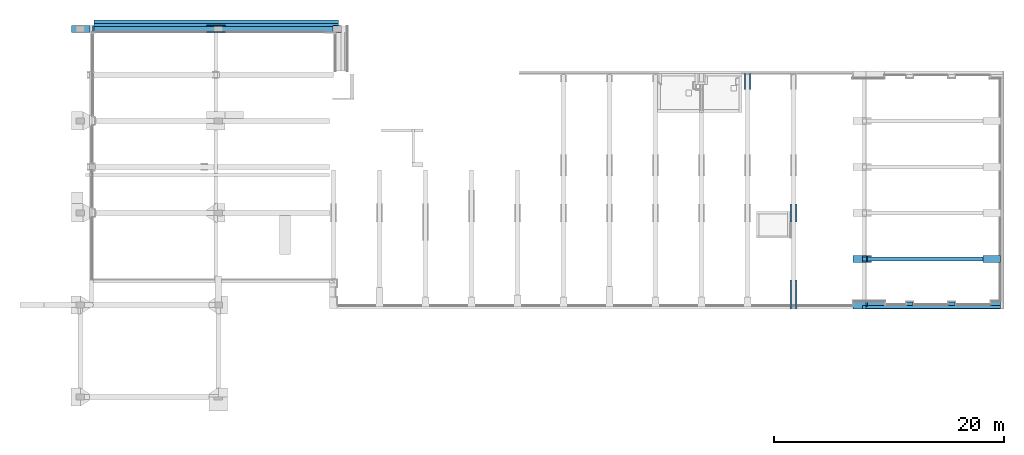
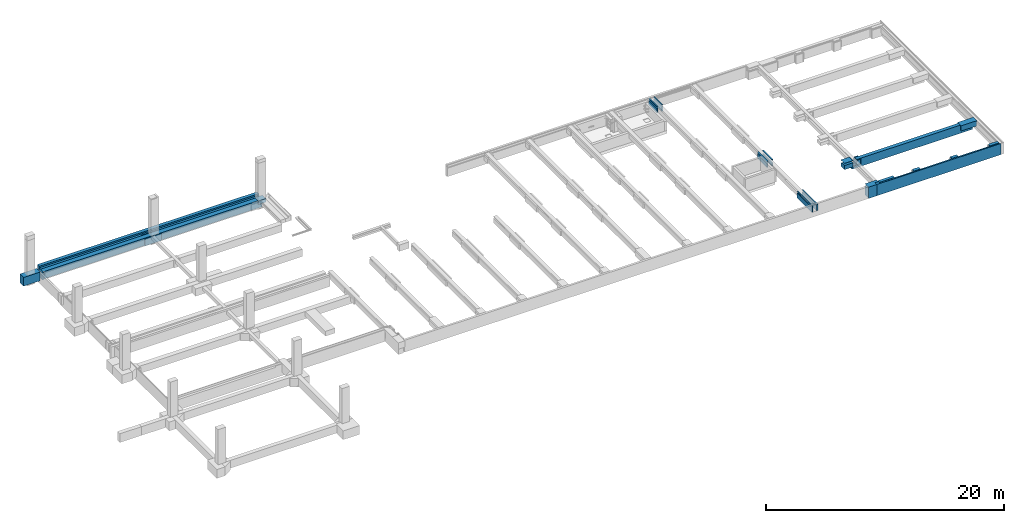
# One storey, part 7 of 17: 16 beams.
"""IFC2X3 building model written with IfcOpenShell, lengths in millimetres."""

from ifc_helpers import new_model, entity, si_unit, converted_unit, derived_unit, money_unit, direction, frame, origin_with_axes, place, context, subcontext, project, spatial, faceted_brep, material, type_object, element, save


model = new_model("IFC2X3")

# Units and contexts
model_context = context("Model", 3, precision=0.01, world=origin_with_axes(), true_north=direction((0.0, 1.0)))
body_context = subcontext(model_context, "Body", "Model", "MODEL_VIEW")
ifc_project = project(units=[si_unit("LENGTHUNIT", "METRE", prefix="MILLI"), si_unit("AREAUNIT", "SQUARE_METRE"), si_unit("VOLUMEUNIT", "CUBIC_METRE"), converted_unit("PLANEANGLEUNIT", "DEGREE", entity("IfcPlaneAngleMeasure", 0.0174532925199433), si_unit("PLANEANGLEUNIT", "RADIAN"), dimensions=[0, 0, 0, 0, 0, 0, 0]), money_unit("EUR"), converted_unit("TIMEUNIT", "Year", entity("IfcTimeMeasure", 31557600.0), si_unit("TIMEUNIT", "SECOND"), dimensions=[0, 0, 1, 0, 0, 0, 0]), si_unit("MASSUNIT", "GRAM", prefix="KILO"), si_unit("THERMODYNAMICTEMPERATUREUNIT", "DEGREE_CELSIUS"), si_unit("LUMINOUSINTENSITYUNIT", "LUMEN"), si_unit("ENERGYUNIT", "JOULE", prefix="MEGA"), derived_unit("THERMALCONDUCTANCEUNIT", [(si_unit("POWERUNIT", "WATT"), 1), (si_unit("LENGTHUNIT", "METRE"), -1), (si_unit("THERMODYNAMICTEMPERATUREUNIT", "KELVIN"), -1)]), derived_unit("SPECIFICHEATCAPACITYUNIT", [(si_unit("ENERGYUNIT", "JOULE"), 1), (si_unit("MASSUNIT", "GRAM", prefix="KILO"), -1), (si_unit("THERMODYNAMICTEMPERATUREUNIT", "KELVIN"), -1)]), derived_unit("MASSDENSITYUNIT", [(si_unit("MASSUNIT", "GRAM", prefix="KILO"), 1), (si_unit("VOLUMEUNIT", "CUBIC_METRE"), -1)])], contexts=[model_context])

# Site, building, storey
site_placement = place(None, origin_with_axes())
site = spatial("IfcSite", under=ifc_project, at=site_placement, Name="<site naam>", CompositionType="ELEMENT")
building_placement = place(site_placement, origin_with_axes())
building = spatial("IfcBuilding", under=site, at=building_placement, Name="<Naam gebouw>", CompositionType="ELEMENT")
storey_placement = place(building_placement, frame((0.0, 0.0, -1100.0), z_axis=(0.0, 0.0, 1.0), x_axis=(1.0, 0.0, 0.0)))
storey = spatial("IfcBuildingStorey", under=building, at=storey_placement, Name="-1 Fundering", CompositionType="ELEMENT", Elevation=-1100.0)

# Beams
ifc_material = material(Name="beton_gewapend C")
beam_type_1 = type_object("IfcBeamType", Name="beton_gewapend C 600 x 650", PredefinedType="BEAM")
beam_1_placement = place(storey_placement, frame((58800.00000000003, 4000.000000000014, 1070.0), z_axis=(0.0, 0.0, 1.0), x_axis=(0.0, 1.0, 0.0)))
element("IfcBeam", 1, at=beam_1_placement, inside=storey, type_object=beam_type_1, material=ifc_material, Name="28_Balk_beton_gewapend", ObjectType="BEAM", context=body_context, shape_type="Brep", body=[
    faceted_brep([(-174.9999999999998, 357.1716637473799, -220.0), (-174.9999999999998, 357.1716637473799, -120.0), (-174.9999999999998, 0.0, -120.0), (-175.0000000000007, 0.0, -650.055), (-174.9999999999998, 799.99999999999, -650.055), (-174.9999999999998, 799.99999999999, -220.0), (-174.9999999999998, 774.9999999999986, -220.0), (-175.0000000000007, 774.9999999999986, -650.0000000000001), (-175.0000000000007, 424.9999999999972, -650.0000000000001), (-174.9999999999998, 424.9999999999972, -220.0), (-300.0000000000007, 357.1716637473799, -220.0), (-300.0000000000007, 357.1716637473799, -120.0), (-299.9999999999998, 0.0, -120.0), (-299.9999999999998, 0.0, -650.055), (175.0000000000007, 0.0, -650.055), (174.9999999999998, 799.99999999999, -650.055), (-299.9999999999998, 1600.000000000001, -650.055), (299.9999999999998, 1600.000000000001, -650.055), (299.9999999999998, 0.0, -650.055), (174.9999999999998, 799.99999999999, -330.0000000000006), (174.9999999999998, 799.99999999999, -220.0), (174.9999999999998, 1600.000000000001, -220.0), (-299.9999999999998, 1600.000000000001, -220.0), (-299.9999999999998, 774.9999999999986, -220.0), (-300.0000000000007, 774.9999999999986, -650.0000000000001), (-300.0000000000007, 424.9999999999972, -650.0000000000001), (-299.9999999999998, 424.9999999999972, -220.0), (174.9999999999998, 0.0, -120.0), (175.0000000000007, 357.1716637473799, -120.0), (175.0000000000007, 357.1716637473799, -220.0), (174.9999999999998, 424.9999999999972, -220.0), (175.0000000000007, 424.9999999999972, -650.0000000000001), (175.0000000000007, 774.9999999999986, -650.0000000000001), (174.9999999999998, 774.9999999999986, -330.0000000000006), (174.9999999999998, 1600.000000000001, -330.0000000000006), (299.9999999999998, 1600.000000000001, -330.0000000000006), (300.0000000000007, 357.1716637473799, -220.0), (300.0000000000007, 357.1716637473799, -120.0), (299.9999999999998, 0.0, -120.0), (300.0000000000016, 774.9999999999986, -330.0000000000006), (300.0000000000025, 774.9999999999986, -650.0000000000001), (300.0000000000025, 424.9999999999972, -650.0000000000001), (300.0000000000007, 424.9999999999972, -220.0)], [[[0, 1, 2, 3, 4, 5, 6, 7, 8, 9]], [[10, 11, 1, 0]], [[11, 12, 2, 1]], [[3, 2, 12, 13]], [[14, 15, 4, 3, 13, 16, 17, 18]], [[15, 19, 20, 5, 4]], [[5, 20, 21, 22, 23, 6]], [[7, 6, 23, 24]], [[24, 25, 8, 7]], [[25, 26, 9, 8]], [[10, 0, 9, 26]], [[13, 12, 11, 10, 26, 25, 24, 23, 22, 16]], [[14, 27, 28, 29, 30, 31, 32, 33, 19, 15]], [[21, 34, 35, 17, 16, 22]], [[36, 37, 38, 18, 17, 35, 39, 40, 41, 42]], [[18, 38, 27, 14]], [[34, 21, 20, 19]], [[28, 27, 38, 37]], [[29, 28, 37, 36]], [[29, 36, 42, 30]], [[31, 30, 42, 41]], [[41, 40, 32, 31]], [[40, 39, 33, 32]], [[19, 33, 39, 35, 34]]]),
    faceted_brep([(174.9999999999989, 774.9999999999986, 0.0), (174.9999999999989, 774.9999999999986, -19.99999999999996), (300.0000000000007, 774.9999999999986, -19.99999999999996), (300.0000000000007, 774.9999999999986, 0.0), (174.9999999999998, 799.99999999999, 0.0), (174.9999999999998, 799.99999999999, -19.99999999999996), (-299.9999999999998, 1600.000000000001, -19.99999999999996), (299.9999999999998, 1600.000000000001, -20.00000000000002), (-174.9999999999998, 799.99999999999, -20.00000000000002), (-174.9999999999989, 774.9999999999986, -20.00000000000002), (-299.9999999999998, 774.9999999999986, -20.00000000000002), (299.9999999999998, 1600.000000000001, 0.0), (-174.9999999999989, 774.9999999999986, 0.0), (-174.9999999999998, 799.99999999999, 0.0), (-299.9999999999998, 1600.000000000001, 0.0), (-299.9999999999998, 774.9999999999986, 0.0)], [[[0, 1, 2, 3]], [[4, 5, 1, 0]], [[6, 7, 2, 1, 5, 8, 9, 10]], [[3, 2, 7, 11]], [[12, 13, 4, 0, 3, 11, 14, 15]], [[13, 8, 5, 4]], [[11, 7, 6, 14]], [[12, 9, 8, 13]], [[15, 10, 9, 12]], [[14, 6, 10, 15]]]),
])
beam_2_placement = place(storey_placement, frame((70310.0, 4000.000000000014, 1070.0), z_axis=(0.0, 0.0, 1.0), x_axis=(0.0, 1.0, 0.0)))
element("IfcBeam", 2, at=beam_2_placement, inside=storey, type_object=beam_type_1, material=ifc_material, Name="28_Balk_beton_gewapend", ObjectType="BEAM", context=body_context, shape_type="Brep", body=[
    faceted_brep([(299.9999999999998, 1819.999999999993, -650.0000000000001), (299.9999999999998, 1819.999999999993, -120.0), (300.0000000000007, 299.9999999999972, -119.9999999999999), (299.9999999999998, 299.9999999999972, -650.0000000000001), (-299.9999999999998, 1819.999999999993, -650.0000000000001), (-299.9999999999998, 1819.999999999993, -119.9999999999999), (-299.9999999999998, 299.9999999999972, -120.0), (-299.9999999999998, 299.9999999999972, -650.0000000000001)], [[[0, 1, 2, 3]], [[4, 5, 1, 0]], [[5, 6, 2, 1]], [[3, 2, 6, 7]], [[7, 4, 0, 3]], [[7, 6, 5, 4]]]),
])
beam_3_placement = place(storey_placement, frame((52000.00000000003, 8794.453850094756, 1070.0), z_axis=(0.0, 0.0, 1.0), x_axis=(-1.0, 0.0, 0.0)))
element("IfcBeam", 3, at=beam_3_placement, inside=storey, type_object=beam_type_1, material=ifc_material, Name="28_Balk_beton_gewapend", ObjectType="BEAM", context=body_context, shape_type="Brep", body=[
    faceted_brep([(299.9999999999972, 0.0, -650.0000000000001), (299.9999999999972, 0.0, -170.0), (174.9999999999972, 0.0, -170.0), (174.9999999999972, 0.0, -650.0000000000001), (299.9999999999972, 1599.999999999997, -650.0000000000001), (299.9999999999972, 1599.999999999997, -170.0), (174.9999999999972, 1599.999999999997, -170.0), (174.9999999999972, 1599.999999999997, -650.0000000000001)], [[[0, 1, 2, 3]], [[4, 5, 1, 0]], [[5, 6, 2, 1]], [[3, 2, 6, 7]], [[7, 4, 0, 3]], [[7, 6, 5, 4]]]),
    faceted_brep([(-175.0000000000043, 0.0, -650.0000000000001), (-175.0000000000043, 0.0, -330.0000000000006), (-299.9999999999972, 0.0, -330.0000000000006), (-299.9999999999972, 0.0, -650.0000000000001), (-175.0000000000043, 1599.999999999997, -650.0000000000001), (-175.0000000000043, 1599.999999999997, -330.0000000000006), (-299.9999999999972, 1599.999999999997, -330.0000000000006), (-299.9999999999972, 1599.999999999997, -650.0000000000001)], [[[0, 1, 2, 3]], [[4, 5, 1, 0]], [[5, 6, 2, 1]], [[3, 2, 6, 7]], [[0, 3, 7, 4]], [[7, 6, 5, 4]]]),
    faceted_brep([(-299.9999999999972, 1599.999999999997, 0.0), (-299.9999999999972, 1599.999999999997, -80.00000000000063), (-299.9999999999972, 0.0, -80.00000000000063), (-299.9999999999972, 0.0, 0.0), (-175.0000000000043, 1599.999999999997, 0.0), (-175.0000000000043, 1599.999999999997, -80.00000000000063), (-175.0000000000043, 0.0, -80.00000000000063), (-175.0000000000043, 0.0, 0.0)], [[[0, 1, 2, 3]], [[4, 5, 1, 0]], [[5, 6, 2, 1]], [[3, 2, 6, 7]], [[4, 0, 3, 7]], [[7, 6, 5, 4]]]),
    faceted_brep([(174.9999999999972, 1599.999999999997, 0.0), (174.9999999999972, 1599.999999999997, -20.00000000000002), (174.9999999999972, 0.0, -20.00000000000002), (174.9999999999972, 0.0, 0.0), (299.9999999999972, 1599.999999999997, 0.0), (299.9999999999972, 1599.999999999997, -20.00000000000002), (299.9999999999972, 0.0, -20.00000000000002), (299.9999999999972, 0.0, 0.0)], [[[0, 1, 2, 3]], [[4, 5, 1, 0]], [[5, 6, 2, 1]], [[3, 2, 6, 7]], [[3, 7, 4, 0]], [[7, 6, 5, 4]]]),
])
beam_4_placement = place(storey_placement, frame((52000.00000000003, 2150.000000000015, 1070.0), z_axis=(0.0, 0.0, 1.0), x_axis=(-1.0, 0.0, 0.0)))
element("IfcBeam", 4, at=beam_4_placement, inside=storey, type_object=beam_type_1, material=ifc_material, Name="28_Balk_beton_gewapend", ObjectType="BEAM", context=body_context, shape_type="Brep", body=[
    faceted_brep([(185.0000486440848, 2374.993437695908, 0.0), (185.0000009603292, 2374.993437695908, -20.00000000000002), (185.0000009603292, 2274.999999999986, -20.00000000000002), (185.0000486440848, 2149.993401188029, -19.99999999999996), (185.0000486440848, 2149.993401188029, 0.0), (174.9999999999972, 2374.993437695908, -120.0), (185.0000009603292, 2374.993437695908, -120.0), (185.0000009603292, 2374.993437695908, -170.0), (299.9999999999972, 2374.993437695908, -170.0), (299.9999999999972, 2374.993437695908, -20.00000000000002), (174.9999999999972, 2374.993437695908, 0.0), (299.9999999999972, 0.0, -20.00000000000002), (174.9999999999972, 0.0, -19.99999999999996), (174.9999999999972, 2149.993401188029, -19.99999999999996), (174.9999999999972, 2149.993401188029, 0.0), (174.9999999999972, 0.0, 0.0), (299.9999999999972, 0.0, 0.0), (299.9999999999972, 2484.999999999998, 0.0), (174.9999999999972, 2484.999999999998, 0.0), (174.9999999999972, 2274.999999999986, -120.0), (185.0000009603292, 2274.999999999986, -120.0), (185.0000009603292, 2274.999999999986, -170.0), (196.0454266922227, 2274.999999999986, -170.0), (196.0454266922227, 0.0, -170.0), (299.9999999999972, 0.0, -170.0), (299.9999999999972, 0.0, -650.0000000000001), (299.9999999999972, 2484.999999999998, -650.0000000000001), (174.9999999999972, 2484.999999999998, -650.0000000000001), (174.9999999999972, 0.0, -650.0000000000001), (174.9999999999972, 0.0, -220.0), (174.9999999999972, 2274.999999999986, -220.0), (196.0454266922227, 2274.999999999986, -220.0), (196.0454266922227, 0.0, -220.0)], [[[0, 1, 2, 3, 4]], [[5, 6, 7, 8, 9, 1, 0, 10]], [[11, 12, 13, 3, 2, 1, 9]], [[3, 13, 14, 4]], [[10, 0, 4, 14, 15, 16, 17, 18]], [[19, 20, 6, 5]], [[7, 6, 20, 21]], [[7, 21, 22, 23, 24, 8]], [[9, 8, 24, 25, 26, 17, 16, 11]], [[19, 5, 10, 18, 27, 28, 29, 30]], [[15, 12, 11, 16]], [[15, 14, 13, 12]], [[17, 26, 27, 18]], [[22, 21, 20, 19, 30, 31]], [[32, 23, 22, 31]], [[25, 24, 23, 32, 29, 28]], [[26, 25, 28, 27]], [[31, 30, 29, 32]]]),
    faceted_brep([(-299.9999999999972, 0.0, -220.0), (-299.9999999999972, 2274.999999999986, -220.0), (-299.9999999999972, 2274.999999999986, -19.99999999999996), (-299.9999999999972, 0.0, -19.99999999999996), (-299.9999999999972, 0.0, 0.0), (-299.9999999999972, 2484.999999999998, 0.0), (-299.9999999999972, 2484.999999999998, -650.0000000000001), (-299.9999999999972, 0.0, -650.0000000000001), (-175.0000000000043, 2274.999999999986, -220.0), (-175.0000000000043, 0.0, -220.0), (-175.0000000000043, 2274.999999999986, -19.99999999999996), (-175.0000000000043, 0.0, -20.00000000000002), (-175.0000000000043, 0.0, 0.0), (-175.0000000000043, 2484.999999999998, 0.0), (-175.0000000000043, 2484.999999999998, -650.0000000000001), (-175.0000000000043, 0.0, -650.0000000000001)], [[[0, 1, 2, 3, 4, 5, 6, 7]], [[8, 1, 0, 9]], [[10, 2, 1, 8]], [[10, 11, 3, 2]], [[4, 3, 11, 12]], [[5, 4, 12, 13]], [[6, 5, 13, 14]], [[7, 6, 14, 15]], [[15, 9, 0, 7]], [[10, 8, 9, 15, 14, 13, 12, 11]]]),
])
beam_5_placement = place(storey_placement, frame((48000.00000000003, 20335.00000000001, 1070.0), z_axis=(0.0, 0.0, 1.0), x_axis=(-1.0, 0.0, 0.0)))
element("IfcBeam", 5, at=beam_5_placement, inside=storey, type_object=beam_type_1, material=ifc_material, Name="28_Balk_beton_gewapend", ObjectType="BEAM", context=body_context, shape_type="Brep", body=[
    faceted_brep([(299.9999999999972, 199.9999999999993, -650.0000000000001), (299.9999999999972, 199.9999999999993, -170.0), (174.9999999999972, 199.9999999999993, -170.0), (174.9999999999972, 199.9999999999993, -650.0000000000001), (299.9999999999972, 1600.000000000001, -650.0000000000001), (299.9999999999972, 1600.000000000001, -170.0), (174.9999999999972, 1599.999999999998, -170.0), (174.9999999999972, 1599.999999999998, -650.0000000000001)], [[[0, 1, 2, 3]], [[4, 5, 1, 0]], [[5, 6, 2, 1]], [[3, 2, 6, 7]], [[7, 4, 0, 3]], [[7, 6, 5, 4]]]),
    faceted_brep([(-174.9999999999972, 199.9999999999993, -650.0000000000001), (-174.9999999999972, 199.9999999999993, -170.0), (-299.9999999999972, 199.9999999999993, -170.0), (-299.9999999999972, 199.9999999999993, -650.0000000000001), (-174.9999999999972, 1599.999999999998, -650.0000000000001), (-174.9999999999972, 1599.999999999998, -170.0), (-299.9999999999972, 1600.000000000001, -170.0), (-299.9999999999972, 1600.000000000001, -650.0000000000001)], [[[0, 1, 2, 3]], [[4, 5, 1, 0]], [[5, 6, 2, 1]], [[3, 2, 6, 7]], [[7, 4, 0, 3]], [[7, 6, 5, 4]]]),
    faceted_brep([(174.9999999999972, 1599.999999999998, 0.0), (174.9999999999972, 1599.999999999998, -20.00000000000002), (174.9999999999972, 199.9999999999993, -20.00000000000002), (174.9999999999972, 199.9999999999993, 0.0), (299.9999999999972, 1600.000000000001, 0.0), (299.9999999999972, 1600.000000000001, -20.00000000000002), (299.9999999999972, 199.9999999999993, -20.00000000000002), (299.9999999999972, 199.9999999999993, 0.0)], [[[0, 1, 2, 3]], [[4, 5, 1, 0]], [[5, 6, 2, 1]], [[3, 2, 6, 7]], [[4, 0, 3, 7]], [[7, 6, 5, 4]]]),
    faceted_brep([(-299.9999999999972, 1600.000000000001, 0.0), (-299.9999999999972, 1600.000000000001, -20.00000000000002), (-299.9999999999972, 199.9999999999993, -20.00000000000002), (-299.9999999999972, 199.9999999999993, 0.0), (-174.9999999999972, 1599.999999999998, 0.0), (-174.9999999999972, 1599.999999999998, -20.00000000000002), (-174.9999999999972, 199.9999999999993, -20.00000000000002), (-174.9999999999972, 199.9999999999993, 0.0)], [[[0, 1, 2, 3]], [[4, 5, 1, 0]], [[5, 6, 2, 1]], [[3, 2, 6, 7]], [[4, 0, 3, 7]], [[7, 6, 5, 4]]]),
])
beam_type_2 = type_object("IfcBeamType", Name="beton_gewapend C 350 x 950", PredefinedType="BEAM")
beam_6_placement = place(storey_placement, frame((58000.00000000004, 4000.000000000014, 1070.0), z_axis=(0.0, 0.0, 1.0), x_axis=(0.0, -1.0, 0.0)))
element("IfcBeam", 6, at=beam_6_placement, inside=storey, type_object=beam_type_2, material=ifc_material, Name="28_Balk_beton_gewapend", ObjectType="BEAM", context=body_context, shape_type="Brep", body=[
    faceted_brep([(-174.9999999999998, 442.8283362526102, -220.0), (-174.9999999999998, 442.8283362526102, -120.0), (-175.0000000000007, 10489.99999999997, -120.0), (-175.0000000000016, 10489.99999999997, -650.0000000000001), (-175.0000000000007, 11649.99999999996, -650.0000000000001), (-175.0000000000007, 11649.99999999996, -949.9999999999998), (-174.9999999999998, 0.0, -949.9999999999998), (-174.9999999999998, 0.0, -220.0), (-174.9999999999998, 24.99999999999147, -220.0), (-175.0000000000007, 24.99999999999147, -650.0000000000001), (-175.0000000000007, 374.9999999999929, -650.0000000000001), (-174.9999999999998, 374.9999999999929, -220.0), (174.9999999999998, 442.8283362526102, -220.0), (174.9999999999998, 442.8283362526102, -120.0), (174.9999999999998, 10489.99999999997, -120.0), (174.9999999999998, 10489.99999999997, -650.0000000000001), (174.9999999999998, 11649.99999999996, -650.0000000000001), (174.9999999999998, 11649.99999999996, -949.9999999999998), (174.9999999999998, 0.0, -949.9999999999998), (174.9999999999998, 0.0, -220.0), (174.9999999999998, 24.99999999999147, -220.0), (175.0000000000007, 24.99999999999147, -650.0000000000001), (175.0000000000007, 374.9999999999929, -650.0000000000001), (174.9999999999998, 374.9999999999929, -220.0)], [[[0, 1, 2, 3, 4, 5, 6, 7, 8, 9, 10, 11]], [[12, 13, 1, 0]], [[13, 14, 2, 1]], [[3, 2, 14, 15]], [[4, 3, 15, 16]], [[16, 17, 5, 4]], [[6, 5, 17, 18]], [[18, 19, 7, 6]], [[19, 20, 8, 7]], [[9, 8, 20, 21]], [[10, 9, 21, 22]], [[22, 23, 11, 10]], [[12, 0, 11, 23]], [[15, 14, 13, 12, 23, 22, 21, 20, 19, 18, 17, 16]]]),
    faceted_brep([(174.9999999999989, 24.99999999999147, 0.0), (174.9999999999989, 24.99999999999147, -20.00000000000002), (-174.9999999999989, 24.99999999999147, -19.99999999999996), (-174.9999999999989, 24.99999999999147, 0.0), (174.9999999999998, 0.0, 0.0), (174.9999999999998, 0.0, -20.00000000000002), (-174.9999999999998, 0.0, -19.99999999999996), (-174.9999999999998, 0.0, 0.0)], [[[0, 1, 2, 3]], [[4, 5, 1, 0]], [[5, 6, 2, 1]], [[3, 2, 6, 7]], [[0, 3, 7, 4]], [[7, 6, 5, 4]]]),
])
beam_type_3 = type_object("IfcBeamType", Name="beton_gewapend C 300 x 1150", PredefinedType="BEAM")
beam_7_placement = place(storey_placement, frame((58000.00000000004, -334.9999999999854, 1070.0), z_axis=(0.0, 0.0, 1.0), x_axis=(0.0, -1.0, 0.0)))
element("IfcBeam", 7, at=beam_7_placement, inside=storey, type_object=beam_type_3, material=ifc_material, Name="28_Balk_beton_gewapend", ObjectType="BEAM", context=body_context, shape_type="Brep", body=[
    faceted_brep([(-299.9999999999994, 442.8283362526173, -220.0), (-299.9999999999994, 442.8283362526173, -120.0), (-300.0000000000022, 12009.99999999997, -120.0), (-300.0000000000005, 12009.99999999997, -1150.0), (-299.9999999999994, 0.0, -1150.0), (-299.9999999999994, 0.0, -220.0), (-210.0000000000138, 442.8283362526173, -220.0), (-210.0000000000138, 442.8283362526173, -120.0), (-10.91067811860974, 317.7828447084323, -120.0), (-10.91067811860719, 12009.99999999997, -120.0), (-210.0000000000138, 317.7828447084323, -120.0), (-10.91067811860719, 12009.99999999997, 0.0), (0.0, 12009.99999999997, 0.0), (0.0, 12009.99999999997, -1150.0), (0.0, 0.0, -1150.0), (-210.0000000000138, 0.0, -20.00000000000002), (-210.0000000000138, 0.0, -220.0), (0.0, 0.0, 0.0), (-299.9999999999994, 0.0, 0.0), (-299.9999999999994, 0.0, -20.00000000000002), (-210.0000000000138, 317.7828447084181, -20.00000000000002), (-10.91067811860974, 317.7828447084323, 0.0), (-299.9999999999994, 317.7828447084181, -20.00000000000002), (-300.0000000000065, 317.7828447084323, 0.0)], [[[0, 1, 2, 3, 4, 5]], [[6, 7, 1, 0]], [[8, 9, 2, 1, 7, 10]], [[2, 9, 11, 12, 13, 3]], [[13, 14, 4, 3]], [[15, 16, 5, 4, 14, 17, 18, 19]], [[6, 0, 5, 16]], [[20, 10, 7, 6, 16, 15]], [[8, 21, 11, 9]], [[20, 22, 23, 21, 8, 10]], [[11, 21, 23, 18, 17, 12]], [[12, 17, 14, 13]], [[18, 23, 22, 19]], [[19, 22, 20, 15]]]),
])
beam_type_4 = type_object("IfcBeamType", Name="beton_gewapend C 600 x 1150", PredefinedType="BEAM")
beam_8_placement = place(storey_placement, frame((59900.00000000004, -334.9999999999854, 1070.0), z_axis=(0.0, 0.0, 1.0), x_axis=(0.0, 1.0, 0.0)))
element("IfcBeam", 8, at=beam_8_placement, inside=storey, type_object=beam_type_4, material=ifc_material, Name="28_Balk_beton_gewapend", ObjectType="BEAM", context=body_context, shape_type="Brep", body=[
    faceted_brep([(299.9999999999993, 1899.999999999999, 0.0), (299.9999999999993, 1582.217155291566, 0.0), (600.0000000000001, 1582.217155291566, 0.0), (600.0, 2700.000000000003, 0.0), (0.0, 2700.000000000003, 0.0), (0.0, 1899.999999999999, 0.0), (299.9999999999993, 1899.999999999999, -20.00000000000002), (299.9999999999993, 1582.21715529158, -20.00000000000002), (600.0000000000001, 1582.21715529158, -20.00000000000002), (600.0, 2700.000000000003, -20.00000000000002), (210.0000000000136, 2700.000000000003, -20.00000000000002), (210.0000000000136, 2700.000000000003, -220.0), (600.0, 2700.000000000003, -220.0), (600.0, 2700.000000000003, -1150.0), (0.0, 2700.000000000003, -1150.0), (0.0, 1899.999999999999, -1150.0), (210.0000000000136, 1899.999999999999, -220.0), (210.0000000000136, 1899.999999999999, -20.00000000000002), (299.9999999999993, 1899.999999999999, -1150.0), (299.9999999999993, 1899.999999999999, -220.0), (299.9999999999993, 1457.171663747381, -220.0), (600.0000000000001, 1457.171663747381, -220.0), (600.0000000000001, 1457.171663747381, -120.0), (600.0000000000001, 0.0, -120.0000000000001), (600.0000000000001, 0.0, -1150.0), (299.9999999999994, 0.0, -1150.0), (299.9999999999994, 0.0, -120.0), (299.9999999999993, 1457.171663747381, -120.0)], [[[0, 1, 2, 3, 4, 5]], [[6, 7, 1, 0]], [[7, 8, 2, 1]], [[3, 2, 8, 9]], [[10, 11, 12, 13, 14, 4, 3, 9]], [[4, 14, 15, 5]], [[16, 17, 6, 0, 5, 15, 18, 19]], [[9, 8, 7, 6, 17, 10]], [[10, 17, 16, 11]], [[20, 21, 12, 11, 16, 19]], [[21, 22, 23, 24, 13, 12]], [[24, 25, 18, 15, 14, 13]], [[25, 26, 27, 20, 19, 18]], [[20, 27, 22, 21]], [[27, 26, 23, 22]], [[24, 23, 26, 25]]]),
])
beam_9_placement = place(storey_placement, frame((62400.00000000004, -334.9999999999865, 1070.0), z_axis=(0.0, 0.0, 1.0), x_axis=(0.0, 1.0, 0.0)))
element("IfcBeam", 9, at=beam_9_placement, inside=storey, type_object=beam_type_4, material=ifc_material, Name="28_Balk_beton_gewapend", ObjectType="BEAM", context=body_context, shape_type="Brep", body=[
    faceted_brep([(600.000000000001, 600.0000000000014, -1150.0), (600.000000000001, 600.0000000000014, -120.0000000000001), (599.9999999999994, 0.0, -120.0000000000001), (599.9999999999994, 0.0, -1150.0), (300.0000000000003, 600.0000000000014, -1150.0), (300.000000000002, 600.0000000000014, -120.0000000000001), (300.0000000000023, 0.0, -120.0), (300.0000000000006, 0.0, -1150.0)], [[[0, 1, 2, 3]], [[4, 5, 1, 0]], [[5, 6, 2, 1]], [[3, 2, 6, 7]], [[4, 0, 3, 7]], [[7, 6, 5, 4]]]),
])
beam_10_placement = place(storey_placement, frame((66050.00000000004, -334.9999999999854, 1070.0), z_axis=(0.0, 0.0, 1.0), x_axis=(0.0, 1.0, 0.0)))
element("IfcBeam", 10, at=beam_10_placement, inside=storey, type_object=beam_type_4, material=ifc_material, Name="28_Balk_beton_gewapend", ObjectType="BEAM", context=body_context, shape_type="Brep", body=[
    faceted_brep([(599.9999999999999, 600.0000000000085, -1150.0), (599.9999999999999, 600.0000000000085, -120.0000000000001), (600.0000000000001, 0.0, -120.0000000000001), (600.0000000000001, 0.0, -1150.0), (300.0000000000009, 600.0000000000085, -1150.0), (300.0000000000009, 600.0000000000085, -120.0000000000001), (300.0000000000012, 0.0, -120.0), (300.0000000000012, 0.0, -1150.0)], [[[0, 1, 2, 3]], [[4, 5, 1, 0]], [[5, 6, 2, 1]], [[3, 2, 6, 7]], [[4, 0, 3, 7]], [[7, 6, 5, 4]]]),
])
beam_11_placement = place(storey_placement, frame((70310.0, -334.9999999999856, 1070.0), z_axis=(0.0, 0.0, 1.0), x_axis=(0.0, 1.0, 0.0)))
element("IfcBeam", 11, at=beam_11_placement, inside=storey, type_object=beam_type_4, material=ifc_material, Name="28_Balk_beton_gewapend", ObjectType="BEAM", context=body_context, shape_type="Brep", body=[
    faceted_brep([(600.0000000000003, 1159.999999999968, -1150.0), (600.0000000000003, 1159.999999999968, -120.0000000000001), (600.0000000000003, 299.9999999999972, -120.0), (600.0000000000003, 299.9999999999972, -1150.0), (300.0000000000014, 1159.999999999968, -1150.0), (300.0000000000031, 1159.999999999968, -120.0000000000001), (300.0000000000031, 299.9999999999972, -120.0), (300.0000000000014, 299.9999999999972, -1150.0)], [[[0, 1, 2, 3]], [[4, 5, 1, 0]], [[5, 6, 2, 1]], [[3, 2, 6, 7]], [[0, 3, 7, 4]], [[7, 6, 5, 4]]]),
])
beam_type_5 = type_object("IfcBeamType", Name="beton_gewapend C 450 x 900", PredefinedType="BEAM")
beam_12_placement = place(storey_placement, frame((-9159.08249171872, 24000.00000000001, 1050.0), z_axis=(0.0, 0.0, 1.0), x_axis=(0.0, -1.0, 0.0)))
element("IfcBeam", 12, at=beam_12_placement, inside=storey, type_object=beam_type_5, material=ifc_material, Name="28_Balk_beton_gewapend", ObjectType="BEAM", context=body_context, shape_type="Brep", body=[
    faceted_brep([(-225.0000000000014, 355.0000006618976, -900.0), (-225.0000000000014, 355.0000006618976, -150.0), (-225.0000000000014, 21134.08249171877, -150.0), (-225.0000000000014, 21134.08249171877, -500.0003998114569), (-225.0000000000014, 21509.08249171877, -500.0003998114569), (-225.0000000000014, 21509.08249171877, -900.0), (225.0000000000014, 355.0000006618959, -900.0), (225.0000000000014, 355.0000006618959, -150.0), (225.0000000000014, 21134.08249171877, -150.0), (225.0000000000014, 21134.08249171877, -500.0003998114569), (224.9999999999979, 21509.08249171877, -500.0003998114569), (224.9999999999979, 21509.08249171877, -900.0)], [[[0, 1, 2, 3, 4, 5]], [[6, 7, 1, 0]], [[7, 8, 2, 1]], [[3, 2, 8, 9]], [[3, 9, 10, 4]], [[11, 5, 4, 10]], [[0, 5, 11, 6]], [[9, 8, 7, 6, 11, 10]]]),
])
beam_type_6 = type_object("IfcBeamType", Name="beton_gewapend C 600 x 900", PredefinedType="BEAM")
beam_13_placement = place(storey_placement, frame((2595.917508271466, 24000.00000000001, 1050.0), z_axis=(0.0, 0.0, 1.0), x_axis=(0.0, 1.0, 0.0)))
element("IfcBeam", 13, at=beam_13_placement, inside=storey, type_object=beam_type_6, material=ifc_material, Name="28_Balk_beton_gewapend", ObjectType="BEAM", context=body_context, shape_type="Brep", body=[
    faceted_brep([(-224.9999999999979, 1599.999999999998, -900.0), (-224.9999999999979, 1599.999999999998, -150.0), (-224.9999999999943, 0.0, -150.0), (-224.9999999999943, 0.0, -900.0), (-300.0000000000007, 1599.999999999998, -900.0), (-300.0000000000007, 1599.999999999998, -150.0), (-300.0000000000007, 0.0, -150.0), (-300.0000000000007, 0.0, -900.0)], [[[0, 1, 2, 3]], [[4, 5, 1, 0]], [[5, 6, 2, 1]], [[3, 2, 6, 7]], [[3, 7, 4, 0]], [[7, 6, 5, 4]]]),
    faceted_brep([(300.0000000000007, 1599.999999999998, -900.0), (300.0000000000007, 1599.999999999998, -150.0), (300.0000000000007, 0.0, -150.0), (300.0000000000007, 0.0, -900.0), (225.000000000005, 1599.999999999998, -900.0), (225.000000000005, 1599.999999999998, -150.0), (225.000000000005, 0.0, -150.0), (225.000000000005, 0.0, -900.0)], [[[0, 1, 2, 3]], [[4, 5, 1, 0]], [[5, 6, 2, 1]], [[3, 2, 6, 7]], [[4, 0, 3, 7]], [[7, 6, 5, 4]]]),
])
beam_14_placement = place(storey_placement, frame((-8804.082491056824, 24000.00000000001, 1050.0), z_axis=(0.0, 0.0, 1.0), x_axis=(0.0, 1.0, 0.0)))
element("IfcBeam", 14, at=beam_14_placement, inside=storey, type_object=beam_type_6, material=ifc_material, Name="28_Balk_beton_gewapend", ObjectType="BEAM", context=body_context, shape_type="Brep", body=[
    faceted_brep([(299.9999999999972, 150.917508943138, -900.0), (299.9999999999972, 150.917508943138, -150.0), (300.0000000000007, 0.0, -150.0), (300.0000000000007, 0.0, -900.0), (-300.0000000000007, 150.917508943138, -900.0), (-300.0000000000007, 150.917508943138, -150.0), (-300.0000000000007, 0.0, -150.0), (-300.0000000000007, 0.0, -900.0)], [[[0, 1, 2, 3]], [[4, 5, 1, 0]], [[5, 6, 2, 1]], [[3, 2, 6, 7]], [[0, 3, 7, 4]], [[7, 6, 5, 4]]]),
    faceted_brep([(300.0000000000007, 1955.000000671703, 0.0), (-300.0000000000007, 1955.000000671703, 0.0), (-300.0000000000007, 350.9175089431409, 0.0), (299.9999999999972, 350.9175089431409, 0.0), (300.0000000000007, 1955.000000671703, -900.0), (-300.0000000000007, 1955.000000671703, -900.0), (-300.0000000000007, 350.9175089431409, -900.0), (299.9999999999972, 350.9175089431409, -900.0000000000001)], [[[0, 1, 2, 3]], [[1, 0, 4, 5]], [[1, 5, 6, 2]], [[2, 6, 7, 3]], [[4, 0, 3, 7]], [[5, 4, 7, 6]]]),
])
beam_type_7 = type_object("IfcBeamType", Name="beton_gewapend C 600 x 500", PredefinedType="BEAM")
beam_15_placement = place(storey_placement, frame((12725.00000000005, 24000.00000000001, 1050.0), z_axis=(0.0, 0.0, 1.0), x_axis=(0.0, 1.0, 0.0)))
element("IfcBeam", 15, at=beam_15_placement, inside=storey, type_object=beam_type_7, material=ifc_material, Name="28_Balk_beton_gewapend", ObjectType="BEAM", context=body_context, shape_type="Brep", body=[
    faceted_brep([(300.0000000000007, 750.0, -500.0003998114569), (300.0000000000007, 750.0, -150.0), (300.0000000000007, 0.0, -150.0), (300.0000000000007, 0.0, -500.0003998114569), (-300.0000000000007, 750.0, -500.0003998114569), (-300.0000000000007, 750.0, -150.0), (-300.0000000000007, 0.0, -150.0), (-300.0000000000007, 0.0, -500.0003998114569)], [[[0, 1, 2, 3]], [[4, 5, 1, 0]], [[5, 6, 2, 1]], [[3, 2, 6, 7]], [[0, 3, 7, 4]], [[7, 6, 5, 4]]]),
])
beam_type_8 = type_object("IfcBeamType", Name="beton_gewapend C 550 x 900", PredefinedType="BEAM")
beam_16_placement = place(storey_placement, frame((-8804.082491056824, 24224.9596240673, 1050.000150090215), z_axis=(0.0, 0.0, 1.0), x_axis=(0.0, -1.0, 0.0)))
element("IfcBeam", 16, at=beam_16_placement, inside=storey, type_object=beam_type_8, material=ifc_material, Name="28_Balk_beton_gewapend", ObjectType="BEAM", context=body_context, shape_type="Brep", body=[
    faceted_brep([(-225.040375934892, 0.0, 0.0), (-225.0403761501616, 21269.0825043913, 0.0), (-550.0065623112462, 21269.0825043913, 0.0), (-550.0065623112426, 0.0, 0.0), (-225.0403761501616, 21269.0825043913, -150.0001500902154), (-225.0403759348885, 0.0, -150.0001500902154), (0.0, 21269.0825043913, -150.0001500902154), (0.0, 21269.0825043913, -900.0001538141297), (-550.0065623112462, 21269.0825043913, -900.0001538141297), (-550.0065623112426, 0.0, -900.0001538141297), (0.0, 0.0, -900.0001538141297), (0.0, 0.0, -150.0001500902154)], [[[0, 1, 2, 3]], [[4, 1, 0, 5]], [[4, 6, 7, 8, 2, 1]], [[9, 3, 2, 8]], [[5, 0, 3, 9, 10, 11]], [[6, 4, 5, 11]], [[6, 11, 10, 7]], [[10, 9, 8, 7]]]),
])

save(model, "model.ifc")
